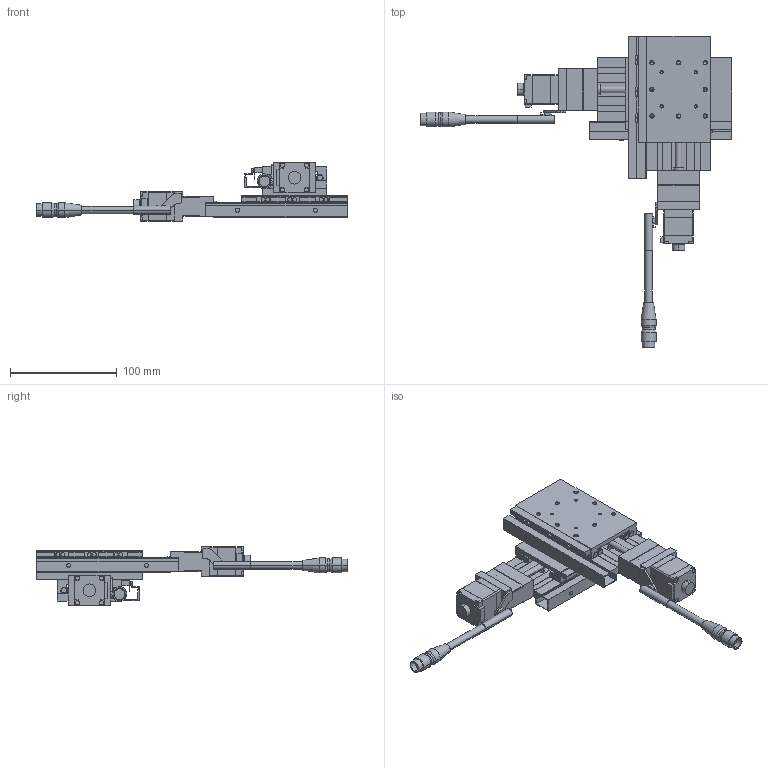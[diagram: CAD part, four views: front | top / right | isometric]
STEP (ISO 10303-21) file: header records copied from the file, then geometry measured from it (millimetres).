
FILE_DESCRIPTION(('STEP AP203'),'1');
FILE_NAME('C:/3D-Trans/3D_PMG650T-L□-T+240122.step','2024-03-14T06:36:59',(' '),(' '),'Spatial InterOp 3D',' ',' ');
FILE_SCHEMA(('CONFIG_CONTROL_DESIGN'));
Length unit declared in the file: millimetre
Products named in the file (13): 1; 2; 3; 4; 5; 6; 7; 8; 9; 10; 11; 12; 13
Bounding box: 292.5 x 292.5 x 55 mm (x, y, z)
Volume: 369046.3 mm3; surface area: 167035.3 mm2
Topology: 13 solids, 13 shells, 1160 faces, 2916 edges, 1834 vertices
Faces by surface type: plane 656, cylinder 356, cone 148
Entity records: 34962 total; most frequent: DIRECTION 6136, CARTESIAN_POINT 5889, ORIENTED_EDGE 5752, EDGE_CURVE 2876, AXIS2_PLACEMENT_3D 2089, LINE 1958, VECTOR 1958, VERTEX_POINT 1834
